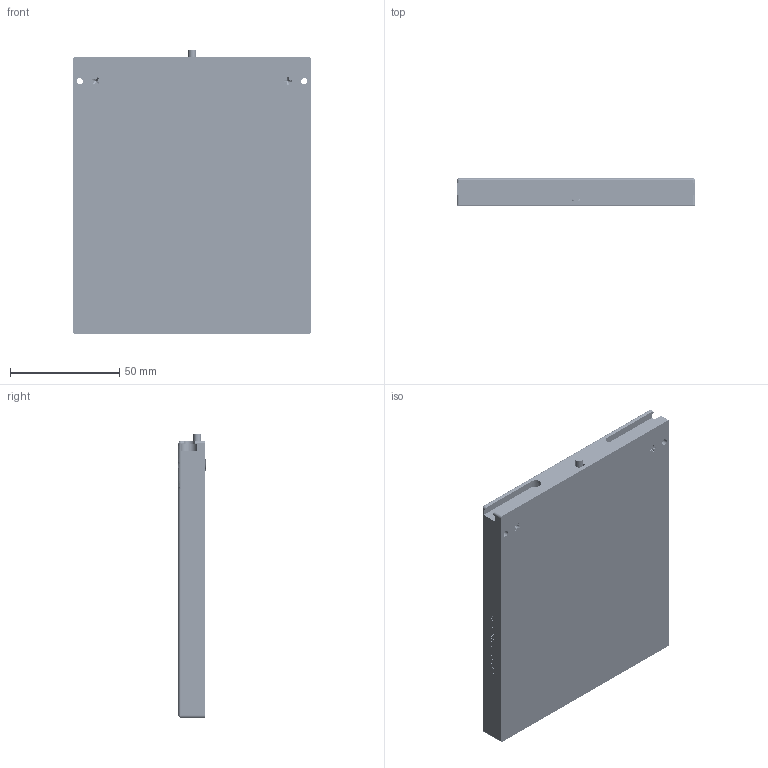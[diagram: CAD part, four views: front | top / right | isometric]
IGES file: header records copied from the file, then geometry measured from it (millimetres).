
Start section: SolidWorks IGES file using analytic representation for surfaces
Global section: file name: \\eofs\shared\PLM\B.Eustace\PLM Projects\Rebecca Charboneau\3543 Smart Vision Lights MBL\Content\Docs\IGES\iges_MBL_100x100.igs; native system: SolidWorks 2024; preprocessor: SolidWorks 2024; author: WEustace; date: 250710.084722; units: millimetre
Bounding box: 109 x 12.4 x 129.9 mm (x, y, z)
Surface area: 200646.6 mm2 (no closed solid volume)
Topology: 0 solids, 0 shells, 4686 faces, 51181 edges, 51167 vertices
Faces by surface type: bspline 3278, revolution 1408
